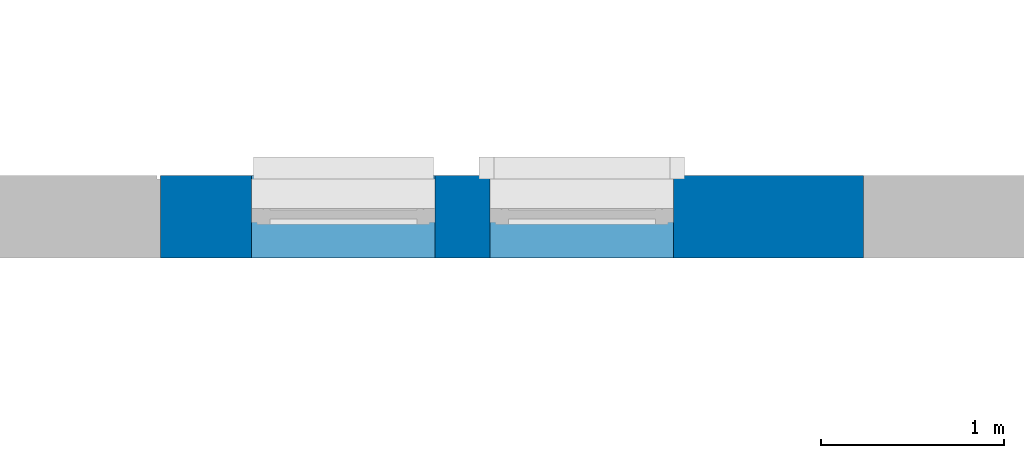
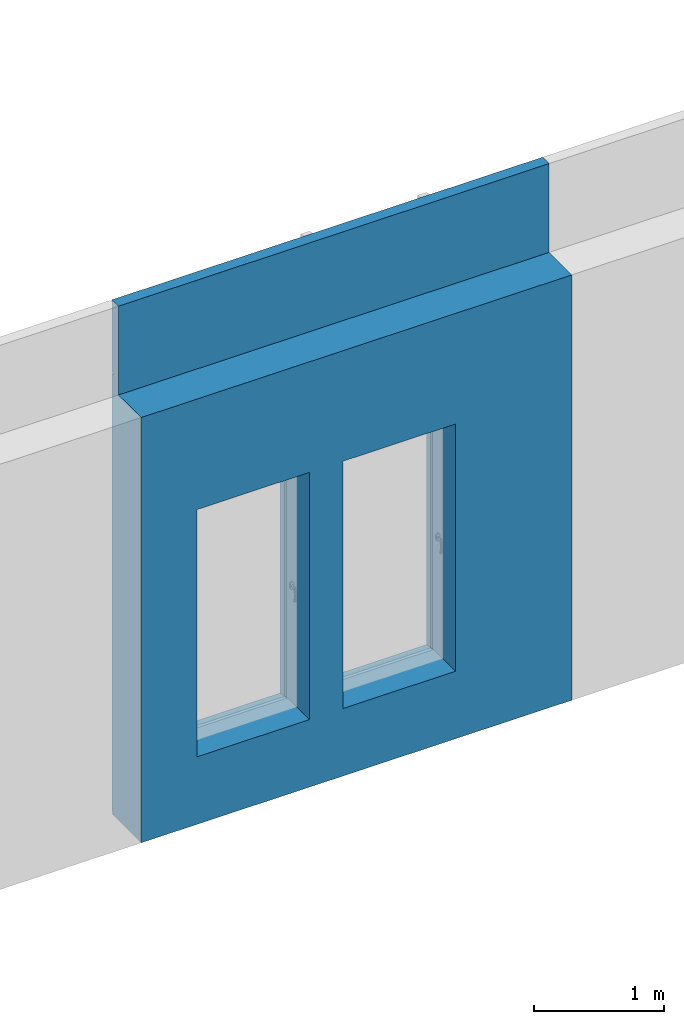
# One storey, part 23 of 33: 1 wall, 5 openings.
"""IFC2X3 building model written with IfcOpenShell, lengths in millimetres."""

from ifc_helpers import new_model, entity, si_unit, converted_unit, derived_unit, direction, frame, frame_2d, origin, place, context, subcontext, project, spatial, polyline, rectangle, extrude, clip, bounded_halfspace, faceted_brep, material, layer, layer_set, layer_usage, type_object, element, save


model = new_model("IFC2X3")

# Units and contexts
model_context = context("Model", 3, precision=0.01, world=origin(), true_north=direction((6.12303176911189e-17, 1.0)))
body_context = subcontext(model_context, "Body", "Model", "MODEL_VIEW")
ifc_project = project(units=[si_unit("LENGTHUNIT", "METRE", prefix="MILLI"), si_unit("AREAUNIT", "SQUARE_METRE"), si_unit("VOLUMEUNIT", "CUBIC_METRE"), converted_unit("PLANEANGLEUNIT", "DEGREE", entity("IfcRatioMeasure", 0.0174532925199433), si_unit("PLANEANGLEUNIT", "RADIAN"), dimensions=[0, 0, 0, 0, 0, 0, 0]), si_unit("MASSUNIT", "GRAM", prefix="KILO"), derived_unit("MASSDENSITYUNIT", [(si_unit("MASSUNIT", "GRAM", prefix="KILO"), 1), (si_unit("LENGTHUNIT", "METRE"), -3)]), si_unit("TIMEUNIT", "SECOND"), si_unit("FREQUENCYUNIT", "HERTZ"), si_unit("THERMODYNAMICTEMPERATUREUNIT", "DEGREE_CELSIUS"), derived_unit("THERMALTRANSMITTANCEUNIT", [(si_unit("MASSUNIT", "GRAM", prefix="KILO"), 1), (si_unit("THERMODYNAMICTEMPERATUREUNIT", "KELVIN"), -1), (si_unit("TIMEUNIT", "SECOND"), -3)]), derived_unit("VOLUMETRICFLOWRATEUNIT", [(si_unit("LENGTHUNIT", "METRE"), 3), (si_unit("TIMEUNIT", "SECOND"), -1)]), si_unit("ELECTRICCURRENTUNIT", "AMPERE"), si_unit("ELECTRICVOLTAGEUNIT", "VOLT"), si_unit("POWERUNIT", "WATT"), si_unit("FORCEUNIT", "NEWTON", prefix="KILO"), si_unit("ILLUMINANCEUNIT", "LUX"), si_unit("LUMINOUSFLUXUNIT", "LUMEN"), si_unit("LUMINOUSINTENSITYUNIT", "CANDELA"), derived_unit("USERDEFINED", [(si_unit("MASSUNIT", "GRAM", prefix="KILO"), -1), (si_unit("LENGTHUNIT", "METRE"), -2), (si_unit("TIMEUNIT", "SECOND"), 3), (si_unit("LUMINOUSFLUXUNIT", "LUMEN"), 1)]), derived_unit("LINEARVELOCITYUNIT", [(si_unit("LENGTHUNIT", "METRE"), 1), (si_unit("TIMEUNIT", "SECOND"), -1)]), si_unit("PRESSUREUNIT", "PASCAL"), derived_unit("USERDEFINED", [(si_unit("LENGTHUNIT", "METRE"), -2), (si_unit("MASSUNIT", "GRAM", prefix="KILO"), 1), (si_unit("TIMEUNIT", "SECOND"), -2)])], contexts=[model_context])

# Site, building, storey
site_placement = place(None, origin())
site = spatial("IfcSite", under=ifc_project, at=site_placement, Name="Default", CompositionType="ELEMENT")
building_placement = place(site_placement, origin())
building = spatial("IfcBuilding", under=site, at=building_placement, CompositionType="ELEMENT")
storey_placement = place(building_placement, frame((0.0, 0.0, 4000.0)))
storey = spatial("IfcBuildingStorey", under=building, at=storey_placement, Name="2. KORRUS", CompositionType="ELEMENT", Elevation=4000.0)

# Wall, openings
ifc_material_1 = material(Name="RECKLI 1 173 THUR by Polantis 2016-toon2")
ifc_layer_1 = layer(ifc_material_1, 100.0)
ifc_material_2 = material(Name="Soojusisolatsioon EPS")
ifc_layer_2 = layer(ifc_material_2, 200.0)
ifc_material_3 = material(Name="r/b")
ifc_layer_3 = layer(ifc_material_3, 150.0)
ifc_layer_set = layer_set([ifc_layer_1, ifc_layer_2, ifc_layer_3], Name="Basic Wall:VS-1_toon-c")
ifc_layer_usage = layer_usage(ifc_layer_set, "AXIS2", "NEGATIVE", 225.0)
wall_type = type_object("IfcWallType", Name="Basic Wall:VS-1_toon-c", PredefinedType="STANDARD", material=ifc_layer_set)
wall_placement = place(storey_placement, frame((18253.3528910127, 21725.0517807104, -135.0)))
wall = element("IfcWallStandardCase", 1, at=wall_placement, inside=storey, type_object=wall_type, material=ifc_layer_usage, Name="Basic Wall:VS-1_toon-c", ObjectType="Basic Wall:VS-1_toon-c", context=body_context, shape_type="Clipping", body=[
    clip(clip(extrude(rectangle(XDim=3831.64710898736, YDim=450.000000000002, at=frame_2d((1915.82355449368, -3.41060513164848e-13), x_axis=(-1.0, 0.0))), origin(), (0.0, 0.0, 1.0), 4835.0), bounded_halfspace(frame((0.0, -225.0, 4000.0), z_axis=(0.0, 0.0, 1.0), x_axis=(0.0, 1.0, 0.0)), False, frame((0.0, -225.0, 4000.0)), polyline([(0.0, 0.0), (3831.64710898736, 0.0), (3831.64710898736, 350.0), (0.0, 350.0), (0.0, 0.0)]))), bounded_halfspace(frame((0.0, -225.0, 4000.0), z_axis=(0.0, 0.0, 1.0), x_axis=(0.0, 1.0, 0.0)), False, frame((0.0, -225.0, 4000.0)), polyline([(0.0, 0.0), (3831.64710898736, 0.0), (3831.64710898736, 350.0), (0.0, 350.0), (0.0, 0.0)]))),
])
opening_1_placement = place(wall_placement, frame((-18703.3528910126, -22175.0517807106, 4.0)))
element("IfcOpeningElement", 2, at=opening_1_placement, cuts=wall, Name="Basic Wall:VS-1_toon-c", ObjectType="Opening", context=body_context, shape_type="Brep", body=[
    faceted_brep([(11850.0, 20.0, 16.0), (11850.0, 0.0, 16.0), (11850.0, 0.0, 0.0), (11850.0, 20.0, 0.0), (4260.0, 20.0, 16.0), (4260.0, 20.0, 0.0), (4260.0, 0.0, 0.0), (4260.0, 0.0, 16.0)], [[[0, 1, 2, 3]], [[4, 5, 6, 7]], [[1, 0, 4, 7]], [[2, 1, 7, 6]], [[3, 2, 6, 5]], [[0, 3, 5, 4]]]),
    faceted_brep([(20.0, 28480.0, 16.0), (20.0, 28480.0, 0.0), (0.0, 28500.0, 0.0), (0.0, 28500.0, 16.0), (20.0, 23740.0, 16.0), (0.0, 23740.0, 16.0), (0.0, 23740.0, 0.0), (20.0, 23740.0, 0.0)], [[[0, 1, 2, 3]], [[4, 5, 6, 7]], [[1, 0, 4, 7]], [[2, 1, 7, 6]], [[3, 2, 6, 5]], [[0, 3, 5, 4]]]),
    faceted_brep([(10080.0, 22380.0517807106, 16.0), (10100.0, 22400.0517807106, 16.0), (10100.0, 22400.0517807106, 0.0), (10080.0, 22380.0517807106, 0.0), (15330.3475962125, 22380.0517807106, 16.0), (15330.3475962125, 22380.0517807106, 0.0), (15330.3475962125, 22400.0517807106, 0.0), (15330.3475962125, 22400.0517807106, 16.0)], [[[0, 1, 2, 3]], [[4, 5, 6, 7]], [[1, 0, 4, 7]], [[2, 1, 7, 6]], [[3, 2, 6, 5]], [[0, 3, 5, 4]]]),
    faceted_brep([(20.0, 28480.0, 16.0), (0.0, 28500.0, 16.0), (0.0, 28500.0, 0.0), (20.0, 28480.0, 0.0), (4360.0, 28480.0, 16.0), (4360.0, 28480.0, 0.0), (4360.0, 28500.0, 0.0), (4360.0, 28500.0, 16.0)], [[[0, 1, 2, 3]], [[4, 5, 6, 7]], [[1, 0, 4, 7]], [[2, 1, 7, 6]], [[3, 2, 6, 5]], [[0, 3, 5, 4]]]),
    faceted_brep([(40380.0, 20.0, 16.0), (40400.0, 0.0, 16.0), (40400.0, 0.0, 0.0), (40380.0, 20.0, 0.0), (35250.0, 20.0, 16.0), (35250.0, 20.0, 0.0), (35250.0, 0.0, 0.0), (35250.0, 0.0, 16.0)], [[[0, 1, 2, 3]], [[4, 5, 6, 7]], [[1, 0, 4, 7]], [[2, 1, 7, 6]], [[3, 2, 6, 5]], [[0, 3, 5, 4]]]),
    faceted_brep([(34420.1035702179, 22380.0517807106, 16.0), (34420.1035702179, 22400.0517807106, 16.0), (34420.1035702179, 22400.0517807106, 0.0), (34420.1035702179, 22380.0517807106, 0.0), (40380.0, 22380.0517807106, 16.0), (40380.0, 22380.0517807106, 0.0), (40400.0, 22400.0517807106, 0.0), (40400.0, 22400.0517807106, 16.0)], [[[0, 1, 2, 3]], [[4, 5, 6, 7]], [[1, 0, 4, 7]], [[2, 1, 7, 6]], [[3, 2, 6, 5]], [[0, 3, 5, 4]]]),
    faceted_brep([(29113.2161487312, 22380.0517807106, 16.0), (29113.2161487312, 22400.0517807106, 16.0), (29113.2161487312, 22400.0517807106, 0.0), (29113.2161487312, 22380.0517807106, 0.0), (34420.1035702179, 22380.0517807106, 16.0), (34420.1035702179, 22380.0517807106, 0.0), (34420.1035702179, 22400.0517807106, 0.0), (34420.1035702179, 22400.0517807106, 16.0)], [[[0, 1, 2, 3]], [[4, 5, 6, 7]], [[1, 0, 4, 7]], [[2, 1, 7, 6]], [[3, 2, 6, 5]], [[0, 3, 5, 4]]]),
    faceted_brep([(10080.0, 28480.0, 16.0), (10100.0, 28500.0, 16.0), (10100.0, 28500.0, 0.0), (10080.0, 28480.0, 0.0), (10080.0, 22380.0517807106, 16.0), (10080.0, 22380.0517807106, 0.0), (10100.0, 22400.0517807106, 0.0), (10100.0, 22400.0517807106, 16.0)], [[[0, 1, 2, 3]], [[4, 5, 6, 7]], [[1, 0, 4, 7]], [[2, 1, 7, 6]], [[3, 2, 6, 5]], [[0, 3, 5, 4]]]),
    faceted_brep([(4260.0, 20.0, 16.0), (4260.0, 0.0, 16.0), (4260.0, 0.0, 0.0), (4260.0, 20.0, 0.0), (0.0, 20.0, 16.0), (0.0, 20.0, 0.0), (0.0, 0.0, 0.0), (0.0, 0.0, 16.0)], [[[0, 1, 2, 3]], [[4, 5, 6, 7]], [[1, 0, 4, 7]], [[2, 1, 7, 6]], [[3, 2, 6, 5]], [[0, 3, 5, 4]]]),
    faceted_brep([(40380.0, 4865.0, 16.0), (40400.0, 4865.0, 16.0), (40400.0, 4865.0, 0.0), (40380.0, 4865.0, 0.0), (40380.0, 20.0, 16.0), (40380.0, 20.0, 0.0), (40400.0, 0.0, 0.0), (40400.0, 0.0, 16.0)], [[[0, 1, 2, 3]], [[4, 5, 6, 7]], [[1, 0, 4, 7]], [[2, 1, 7, 6]], [[3, 2, 6, 5]], [[0, 3, 5, 4]]]),
    faceted_brep([(40380.0, 9093.33000000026, 16.0), (40400.0, 9093.33000000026, 16.0), (40400.0, 9093.33000000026, 0.0), (40380.0, 9093.33000000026, 0.0), (40380.0, 4865.0, 16.0), (40380.0, 4865.0, 0.0), (40400.0, 4865.0, 0.0), (40400.0, 4865.0, 16.0)], [[[0, 1, 2, 3]], [[4, 5, 6, 7]], [[1, 0, 4, 7]], [[2, 1, 7, 6]], [[3, 2, 6, 5]], [[0, 3, 5, 4]]]),
    faceted_brep([(40380.0, 13210.0, 16.0), (40400.0, 13210.0, 16.0), (40400.0, 13210.0, 0.0), (40380.0, 13210.0, 0.0), (40380.0, 9093.33000000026, 16.0), (40380.0, 9093.33000000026, 0.0), (40400.0, 9093.33000000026, 0.0), (40400.0, 9093.33000000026, 16.0)], [[[0, 1, 2, 3]], [[4, 5, 6, 7]], [[1, 0, 4, 7]], [[2, 1, 7, 6]], [[3, 2, 6, 5]], [[0, 3, 5, 4]]]),
    faceted_brep([(40380.0, 16240.0, 16.0), (40400.0, 16240.0, 16.0), (40400.0, 16240.0, 0.0), (40380.0, 16240.0, 0.0), (40380.0, 13210.0, 16.0), (40380.0, 13210.0, 0.0), (40400.0, 13210.0, 0.0), (40400.0, 13210.0, 16.0)], [[[0, 1, 2, 3]], [[4, 5, 6, 7]], [[1, 0, 4, 7]], [[2, 1, 7, 6]], [[3, 2, 6, 5]], [[0, 3, 5, 4]]]),
    faceted_brep([(40380.0, 22380.0517807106, 16.0), (40400.0, 22400.0517807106, 16.0), (40400.0, 22400.0517807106, 0.0), (40380.0, 22380.0517807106, 0.0), (40380.0, 16240.0, 16.0), (40380.0, 16240.0, 0.0), (40400.0, 16240.0, 0.0), (40400.0, 16240.0, 16.0)], [[[0, 1, 2, 3]], [[4, 5, 6, 7]], [[1, 0, 4, 7]], [[2, 1, 7, 6]], [[3, 2, 6, 5]], [[0, 3, 5, 4]]]),
    faceted_brep([(22535.0, 22380.0517807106, 16.0), (22535.0, 22400.0517807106, 16.0), (22535.0, 22400.0517807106, 0.0), (22535.0, 22380.0517807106, 0.0), (29113.2161487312, 22380.0517807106, 16.0), (29113.2161487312, 22380.0517807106, 0.0), (29113.2161487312, 22400.0517807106, 0.0), (29113.2161487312, 22400.0517807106, 16.0)], [[[0, 1, 2, 3]], [[4, 5, 6, 7]], [[1, 0, 4, 7]], [[2, 1, 7, 6]], [[3, 2, 6, 5]], [[0, 3, 5, 4]]]),
    faceted_brep([(18703.3528910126, 22380.0517807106, 16.0), (18703.3528910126, 22400.0517807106, 16.0), (18703.3528910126, 22400.0517807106, 0.0), (18703.3528910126, 22380.0517807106, 0.0), (22535.0, 22380.0517807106, 16.0), (22535.0, 22380.0517807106, 0.0), (22535.0, 22400.0517807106, 0.0), (22535.0, 22400.0517807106, 16.0)], [[[0, 1, 2, 3]], [[4, 5, 6, 7]], [[1, 0, 4, 7]], [[2, 1, 7, 6]], [[3, 2, 6, 5]], [[0, 3, 5, 4]]]),
    faceted_brep([(15330.3475962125, 22380.0517807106, 16.0), (15330.3475962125, 22400.0517807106, 16.0), (15330.3475962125, 22400.0517807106, 0.0), (15330.3475962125, 22380.0517807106, 0.0), (18703.3528910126, 22380.0517807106, 16.0), (18703.3528910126, 22380.0517807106, 0.0), (18703.3528910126, 22400.0517807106, 0.0), (18703.3528910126, 22400.0517807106, 16.0)], [[[0, 1, 2, 3]], [[4, 5, 6, 7]], [[1, 0, 4, 7]], [[2, 1, 7, 6]], [[3, 2, 6, 5]], [[0, 3, 5, 4]]]),
    faceted_brep([(4360.0, 28480.0, 16.0), (4360.0, 28500.0, 16.0), (4360.0, 28500.0, 0.0), (4360.0, 28480.0, 0.0), (10080.0, 28480.0, 16.0), (10080.0, 28480.0, 0.0), (10100.0, 28500.0, 0.0), (10100.0, 28500.0, 16.0)], [[[0, 1, 2, 3]], [[4, 5, 6, 7]], [[1, 0, 4, 7]], [[2, 1, 7, 6]], [[3, 2, 6, 5]], [[0, 3, 5, 4]]]),
    faceted_brep([(20.0, 23740.0, 16.0), (20.0, 23740.0, 0.0), (0.0, 23740.0, 0.0), (0.0, 23740.0, 16.0), (20.0, 16890.0006972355, 16.0), (0.0, 16890.0006972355, 16.0), (0.0, 16890.0006972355, 0.0), (20.0, 16890.0006972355, 0.0)], [[[0, 1, 2, 3]], [[4, 5, 6, 7]], [[1, 0, 4, 7]], [[2, 1, 7, 6]], [[3, 2, 6, 5]], [[0, 3, 5, 4]]]),
    faceted_brep([(20.0, 16890.0006972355, 16.0), (20.0, 16890.0006972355, 0.0), (0.0, 16890.0006972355, 0.0), (0.0, 16890.0006972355, 16.0), (20.0, 13460.0, 16.0), (0.0, 13460.0, 16.0), (0.0, 13460.0, 0.0), (20.0, 13460.0, 0.0)], [[[0, 1, 2, 3]], [[4, 5, 6, 7]], [[1, 0, 4, 7]], [[2, 1, 7, 6]], [[3, 2, 6, 5]], [[0, 3, 5, 4]]]),
])
opening_2_placement = place(wall_placement, origin())
element("IfcOpeningElement", 3, at=opening_2_placement, cuts=wall, Name="Basic Wall:VS-1_toon-c", ObjectType="Recess", context=body_context, shape_type="SweptSolid", body=[
    extrude(rectangle(XDim=4265.0, YDim=16.0000000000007, at=frame_2d((0.0, -2.16626716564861e-12), x_axis=(1.0, 0.0))), frame((3869.72245025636, 205.0, -2132.5), z_axis=(0.0, 1.0, 0.0), x_axis=(0.0, 0.0, 1.0)), (0.0, 0.0, 1.0), 19.9999999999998),
    extrude(rectangle(XDim=4835.0, YDim=16.0000000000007, at=frame_2d((2.27373675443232e-13, -2.16626716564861e-12), x_axis=(1.0, 0.0))), frame((3869.72245025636, 205.0, 2417.5), z_axis=(0.0, 1.0, 0.0), x_axis=(0.0, 0.0, 1.0)), (0.0, 0.0, 1.0), 19.9999999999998),
])
opening_3_placement = place(wall_placement, origin())
element("IfcOpeningElement", 4, at=opening_3_placement, cuts=wall, Name="Basic Wall:VS-1_toon-c", ObjectType="Opening", context=body_context, shape_type="SweptSolid", body=[
    extrude(rectangle(XDim=15.9999999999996, YDim=7590.0, at=frame_2d((0.0, -5.40900657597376e-13), x_axis=(0.0, 1.0))), frame((-10648.3528910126, -22175.0517807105, 4147.0), z_axis=(0.0, 1.0, 0.0), x_axis=(-1.0, 0.0, 0.0)), (0.0, 0.0, 1.0), 20.0),
    extrude(rectangle(XDim=15.9999999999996, YDim=20.0, at=frame_2d((5.40900657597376e-13, -3.37507799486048e-14), x_axis=(1.0, 0.0))), frame((-18693.3528910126, 1564.94821928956, 4147.0), z_axis=(0.0, 1.0, 0.0), x_axis=(0.0, 0.0, -1.0)), (0.0, 0.0, 1.0), 4660.0),
    extrude(rectangle(XDim=15.9999999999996, YDim=5230.3475962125, at=frame_2d((0.0, 5.40900657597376e-13), x_axis=(0.0, 1.0))), frame((-5988.1790929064, 205.0, 4147.0), z_axis=(0.0, 1.0, 0.0), x_axis=(1.0, 0.0, 0.0)), (0.0, 0.0, 1.0), 19.9999999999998),
    extrude(rectangle(XDim=15.9999999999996, YDim=4360.0, at=frame_2d((0.0, 5.40900657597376e-13), x_axis=(0.0, 1.0))), frame((-16523.3528910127, 6304.94821928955, 4147.0), z_axis=(0.0, 1.0, 0.0), x_axis=(1.0, 0.0, 0.0)), (0.0, 0.0, 1.0), 19.9999999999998),
    extrude(rectangle(XDim=15.9999999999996, YDim=5050.0, at=frame_2d((2.27373675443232e-12, 0.0), x_axis=(0.0, 1.0))), frame((19071.6471089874, -22175.0517807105, 4147.0), z_axis=(0.0, 1.0, 0.0), x_axis=(-1.0, 0.0, 0.0)), (0.0, 0.0, 1.0), 20.0),
    extrude(rectangle(XDim=15.9999999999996, YDim=5979.89642978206, at=frame_2d((-2.27373675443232e-12, 0.0), x_axis=(0.0, 1.0))), frame((18706.6988940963, 205.0, 4147.0), z_axis=(0.0, 1.0, 0.0), x_axis=(1.0, 0.0, 0.0)), (0.0, 0.0, 1.0), 19.9999999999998),
    extrude(rectangle(XDim=15.9999999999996, YDim=5306.88742148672, at=frame_2d((2.04636307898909e-12, 5.40900657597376e-13), x_axis=(0.0, 1.0))), frame((13063.3069684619, 205.0, 4147.0), z_axis=(0.0, 1.0, 0.0), x_axis=(1.0, 0.0, 0.0)), (0.0, 0.0, 1.0), 19.9999999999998),
    extrude(rectangle(XDim=15.9999999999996, YDim=19.9999999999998, at=frame_2d((0.0, 5.40900657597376e-13), x_axis=(0.0, 1.0))), frame((-8613.35289101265, 125.0, 4147.0), z_axis=(0.0, 1.0, 0.0), x_axis=(1.0, 0.0, 0.0)), (0.0, 0.0, 1.0), 6099.94821928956),
    extrude(rectangle(XDim=15.9999999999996, YDim=4160.00000000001, at=frame_2d((0.0, -5.40900657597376e-13), x_axis=(0.0, 1.0))), frame((-16523.3528910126, -22175.0517807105, 4147.0), z_axis=(0.0, 1.0, 0.0), x_axis=(-1.0, 0.0, 0.0)), (0.0, 0.0, 1.0), 20.0),
    extrude(rectangle(XDim=15.9999999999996, YDim=20.0000000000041, at=frame_2d((4.33164615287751e-12, 5.40900657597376e-13), x_axis=(0.0, 1.0))), frame((21686.6471089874, -22175.0517807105, 4147.0), z_axis=(0.0, 1.0, 0.0), x_axis=(1.0, 0.0, 0.0)), (0.0, 0.0, 1.0), 4865.0),
    extrude(rectangle(XDim=15.9999999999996, YDim=20.0000000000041, at=frame_2d((-4.33164615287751e-12, -5.40900657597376e-13), x_axis=(0.0, 1.0))), frame((21686.6471089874, -17310.0517807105, 4147.0), z_axis=(0.0, 1.0, 0.0), x_axis=(1.0, 0.0, 0.0)), (0.0, 0.0, 1.0), 4228.33000000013),
    extrude(rectangle(XDim=15.9999999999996, YDim=20.0000000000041, at=frame_2d((-4.33164615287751e-12, -5.40900657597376e-13), x_axis=(0.0, 1.0))), frame((21686.6471089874, -13081.7217807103, 4147.0), z_axis=(0.0, 1.0, 0.0), x_axis=(1.0, 0.0, 0.0)), (0.0, 0.0, 1.0), 4236.66999997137),
    extrude(rectangle(XDim=15.9999999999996, YDim=20.0000000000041, at=frame_2d((4.33164615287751e-12, 5.40900657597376e-13), x_axis=(0.0, 1.0))), frame((21686.6471089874, -8845.05178073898, 4147.0), z_axis=(0.0, 1.0, 0.0), x_axis=(1.0, 0.0, 0.0)), (0.0, 0.0, 1.0), 2910.00000002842),
    extrude(rectangle(XDim=15.9999999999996, YDim=20.0000000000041, at=frame_2d((-4.33164615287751e-12, 5.40900657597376e-13), x_axis=(0.0, 1.0))), frame((21686.6471089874, -5935.05178071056, 4147.0), z_axis=(0.0, 1.0, 0.0), x_axis=(1.0, 0.0, 0.0)), (0.0, 0.0, 1.0), 6060.05178071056),
    extrude(rectangle(XDim=15.9999999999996, YDim=3831.64710898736, at=frame_2d((1.13686837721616e-12, 5.40900657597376e-13), x_axis=(0.0, 1.0))), frame((1915.82355449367, 205.0, 4147.0), z_axis=(0.0, 1.0, 0.0), x_axis=(1.0, 0.0, 0.0)), (0.0, 0.0, 1.0), 19.9999999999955),
    extrude(rectangle(XDim=15.9999999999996, YDim=3373.00529480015, at=frame_2d((0.0, 5.40900657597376e-13), x_axis=(0.0, 1.0))), frame((-1686.50264740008, 205.0, 4147.0), z_axis=(0.0, 1.0, 0.0), x_axis=(1.0, 0.0, 0.0)), (0.0, 0.0, 1.0), 19.9999999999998),
    extrude(rectangle(XDim=15.9999999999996, YDim=5739.99999999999, at=frame_2d((-2.27373675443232e-13, 5.40900657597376e-13), x_axis=(0.0, 1.0))), frame((-11473.3528910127, 6304.94821928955, 4147.0), z_axis=(0.0, 1.0, 0.0), x_axis=(1.0, 0.0, 0.0)), (0.0, 0.0, 1.0), 19.9999999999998),
    extrude(rectangle(XDim=15.9999999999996, YDim=20.0, at=frame_2d((5.40900657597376e-13, -3.37507799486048e-14), x_axis=(1.0, 0.0))), frame((-18693.3528910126, -5285.05108347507, 4147.0), z_axis=(0.0, 1.0, 0.0), x_axis=(0.0, 0.0, -1.0)), (0.0, 0.0, 1.0), 6849.99930276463),
    extrude(rectangle(XDim=15.9999999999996, YDim=20.0, at=frame_2d((5.40900657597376e-13, 3.37507799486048e-14), x_axis=(1.0, 0.0))), frame((-18693.3528910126, -8715.05178073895, 4147.0), z_axis=(0.0, 1.0, 0.0), x_axis=(0.0, 0.0, -1.0)), (0.0, 0.0, 1.0), 3430.00069726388),
    extrude(rectangle(XDim=15.9999999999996, YDim=6578.21614873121, at=frame_2d((0.0, 5.40900657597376e-13), x_axis=(0.0, 1.0))), frame((7120.75518335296, 205.0, 4147.0), z_axis=(0.0, 1.0, 0.0), x_axis=(1.0, 0.0, 0.0)), (0.0, 0.0, 1.0), 19.9999999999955),
    extrude(rectangle(XDim=15.9999999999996, YDim=4110.0, at=frame_2d((1.13686837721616e-12, -5.40900657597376e-13), x_axis=(0.0, 1.0))), frame((-4798.35289101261, -22175.0517807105, 4147.0), z_axis=(0.0, 1.0, 0.0), x_axis=(-1.0, 0.0, 0.0)), (0.0, 0.0, 1.0), 19.9999999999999),
    extrude(rectangle(XDim=15.9999999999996, YDim=4600.0, at=frame_2d((-2.27373675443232e-12, -5.40900657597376e-13), x_axis=(0.0, 1.0))), frame((-443.352891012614, -22175.0517807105, 4147.0), z_axis=(0.0, 1.0, 0.0), x_axis=(-1.0, 0.0, 0.0)), (0.0, 0.0, 1.0), 20.0),
    extrude(rectangle(XDim=15.9999999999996, YDim=4600.0, at=frame_2d((2.27373675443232e-12, -5.40900657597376e-13), x_axis=(0.0, 1.0))), frame((4156.64710898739, -22175.0517807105, 4147.0), z_axis=(0.0, 1.0, 0.0), x_axis=(-1.0, 0.0, 0.0)), (0.0, 0.0, 1.0), 20.0),
    extrude(rectangle(XDim=15.9999999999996, YDim=5299.99999999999, at=frame_2d((-2.04636307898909e-12, -5.40900657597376e-13), x_axis=(0.0, 1.0))), frame((9106.64710898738, -22175.0517807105, 4147.0), z_axis=(0.0, 1.0, 0.0), x_axis=(-1.0, 0.0, 0.0)), (0.0, 0.0, 1.0), 20.0),
    extrude(rectangle(XDim=15.9999999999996, YDim=4790.0, at=frame_2d((0.0, -5.40900657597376e-13), x_axis=(0.0, 1.0))), frame((14151.6471089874, -22175.0517807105, 4147.0), z_axis=(0.0, 1.0, 0.0), x_axis=(-1.0, 0.0, 0.0)), (0.0, 0.0, 1.0), 20.0000000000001),
    extrude(rectangle(XDim=15.9999999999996, YDim=20.0, at=frame_2d((5.40900657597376e-13, -3.37507799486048e-14), x_axis=(1.0, 0.0))), frame((-18693.3528910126, -13439.9109855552, 4147.0), z_axis=(0.0, 1.0, 0.0), x_axis=(0.0, 0.0, -1.0)), (0.0, 0.0, 1.0), 4724.85920481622),
    extrude(rectangle(XDim=15.9999999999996, YDim=20.0, at=frame_2d((5.40900657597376e-13, -3.37507799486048e-14), x_axis=(1.0, 0.0))), frame((-18693.3528910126, -22175.0517807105, 4147.0), z_axis=(0.0, 1.0, 0.0), x_axis=(0.0, 0.0, -1.0)), (0.0, 0.0, 1.0), 8735.1407951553),
])
opening_4_placement = place(wall_placement, frame((1796.64710898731, -225.0, 613.057009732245)))
element("IfcOpeningElement", 5, at=opening_4_placement, cuts=wall, Name="Basic Wall:VS-1_toon-c", ObjectType="Opening", context=body_context, shape_type="Brep", body=[
    faceted_brep([(0.0, 0.0, 2346.94299026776), (0.0, 0.0, 21.9429902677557), (1000.0, 0.0, 21.9429902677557), (1000.0, 0.0, 2346.94299026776), (1000.0, 450.0, 2721.94299026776), (1000.0, 450.0, 0.0), (0.0, 450.0, 0.0), (0.0, 450.0, 2721.94299026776), (0.0, 250.0, 2346.94299026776), (0.0, 250.0, 2721.94299026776), (0.0, 325.555118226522, 21.9429902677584), (1000.0, 325.555118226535, 21.9429902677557), (1000.0, 250.0, 2721.94299026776), (1000.0, 250.0, 2346.94299026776)], [[[0, 1, 2, 3]], [[4, 5, 6, 7]], [[0, 8, 9, 7, 6, 10, 1]], [[1, 10, 11, 2]], [[2, 11, 5, 4, 12, 13, 3]], [[3, 13, 8, 0]], [[9, 8, 13, 12]], [[12, 4, 7, 9]], [[6, 5, 11, 10]]]),
])
opening_5_placement = place(wall_placement, frame((496.647108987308, -225.0, 613.057009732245)))
element("IfcOpeningElement", 6, at=opening_5_placement, cuts=wall, Name="Basic Wall:VS-1_toon-c", ObjectType="Opening", context=body_context, shape_type="Brep", body=[
    faceted_brep([(0.0, 0.0, 2346.94299026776), (0.0, 0.0, 21.9429902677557), (1000.0, 0.0, 21.9429902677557), (1000.0, 0.0, 2346.94299026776), (1000.0, 450.0, 2721.94299026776), (1000.0, 450.0, 0.0), (0.0, 450.0, 0.0), (0.0, 450.0, 2721.94299026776), (0.0, 250.0, 2346.94299026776), (0.0, 250.0, 2721.94299026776), (0.0, 325.555118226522, 21.9429902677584), (1000.0, 325.555118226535, 21.9429902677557), (1000.0, 250.0, 2721.94299026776), (1000.0, 250.0, 2346.94299026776)], [[[0, 1, 2, 3]], [[4, 5, 6, 7]], [[0, 8, 9, 7, 6, 10, 1]], [[1, 10, 11, 2]], [[2, 11, 5, 4, 12, 13, 3]], [[3, 13, 8, 0]], [[9, 8, 13, 12]], [[12, 4, 7, 9]], [[6, 5, 11, 10]]]),
])

save(model, "model.ifc")
